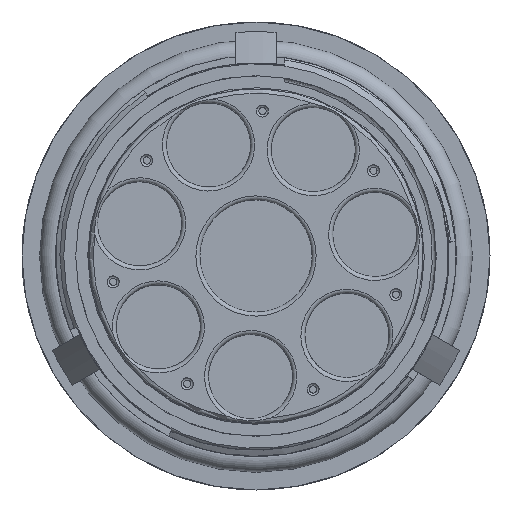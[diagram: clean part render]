
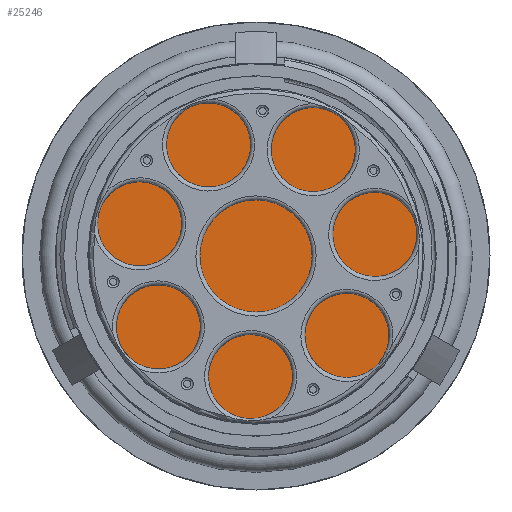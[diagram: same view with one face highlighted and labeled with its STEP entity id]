
A CAD part, front view. The second image highlights one B-rep face of the part: STEP entity #25246.
In plain terms, the highlighted planar face has unit normal (0, -1, 0) as drawn and (0, 1, 0) by its records, which use the part's own axes.
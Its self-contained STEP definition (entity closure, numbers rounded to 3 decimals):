
#5230=PLANE('',#27507);
#5695=FACE_BOUND('',#8156,.T.);
#5696=FACE_BOUND('',#8157,.T.);
#5697=FACE_BOUND('',#8158,.T.);
#6496=FACE_OUTER_BOUND('',#8155,.T.);
#8155=EDGE_LOOP('',(#20054));
#8156=EDGE_LOOP('',(#20055));
#8157=EDGE_LOOP('',(#20056));
#8158=EDGE_LOOP('',(#20057));
#9921=CIRCLE('',#27496,1.9);
#9923=CIRCLE('',#27499,1.9);
#9925=CIRCLE('',#27502,1.9);
#9927=CIRCLE('',#27505,23.);
#11600=VERTEX_POINT('',#45263);
#11602=VERTEX_POINT('',#45268);
#11604=VERTEX_POINT('',#45273);
#11606=VERTEX_POINT('',#45278);
#14641=EDGE_CURVE('',#11600,#11600,#9921,.T.);
#14643=EDGE_CURVE('',#11602,#11602,#9923,.T.);
#14645=EDGE_CURVE('',#11604,#11604,#9925,.T.);
#14647=EDGE_CURVE('',#11606,#11606,#9927,.T.);
#20054=ORIENTED_EDGE('',*,*,#14647,.T.);
#20055=ORIENTED_EDGE('',*,*,#14641,.T.);
#20056=ORIENTED_EDGE('',*,*,#14643,.T.);
#20057=ORIENTED_EDGE('',*,*,#14645,.T.);
#25246=ADVANCED_FACE('',(#6496,#5695,#5696,#5697),#5230,.T.);
#27496=AXIS2_PLACEMENT_3D('',#45264,#31608,#31609);
#27499=AXIS2_PLACEMENT_3D('',#45269,#31614,#31615);
#27502=AXIS2_PLACEMENT_3D('',#45274,#31620,#31621);
#27505=AXIS2_PLACEMENT_3D('',#45279,#31626,#31627);
#27507=AXIS2_PLACEMENT_3D('',#45282,#31630,#31631);
#31608=DIRECTION('center_axis',(0.,-1.,0.));
#31609=DIRECTION('ref_axis',(-1.,0.,0.));
#31614=DIRECTION('center_axis',(0.,-1.,0.));
#31615=DIRECTION('ref_axis',(-1.,0.,0.));
#31620=DIRECTION('center_axis',(0.,-1.,0.));
#31621=DIRECTION('ref_axis',(-1.,0.,0.));
#31626=DIRECTION('center_axis',(0.,1.,0.));
#31627=DIRECTION('ref_axis',(-1.,0.,0.));
#31630=DIRECTION('center_axis',(0.,1.,0.));
#31631=DIRECTION('ref_axis',(0.,0.,1.));
#45263=CARTESIAN_POINT('',(-7.206,1.2,16.921));
#45264=CARTESIAN_POINT('Origin',(-9.106,1.2,16.921));
#45268=CARTESIAN_POINT('',(17.446,1.2,-11.295));
#45269=CARTESIAN_POINT('Origin',(15.546,1.2,-11.295));
#45273=CARTESIAN_POINT('',(20.423,1.2,5.112));
#45274=CARTESIAN_POINT('Origin',(18.523,1.2,5.112));
#45278=CARTESIAN_POINT('',(-23.,1.2,0.));
#45279=CARTESIAN_POINT('Origin',(0.,1.2,0.));
#45282=CARTESIAN_POINT('Origin',(-11.5,1.2,0.));
